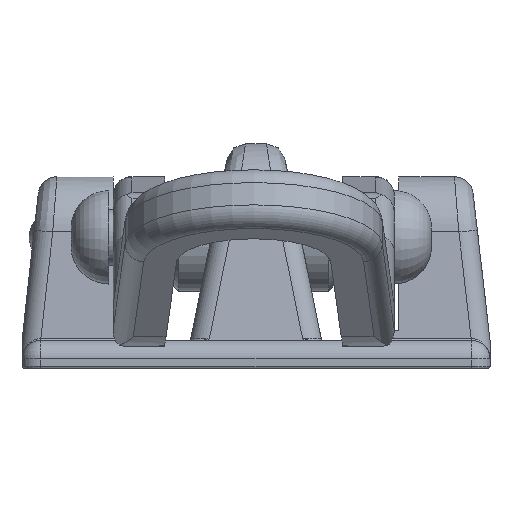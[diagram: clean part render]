
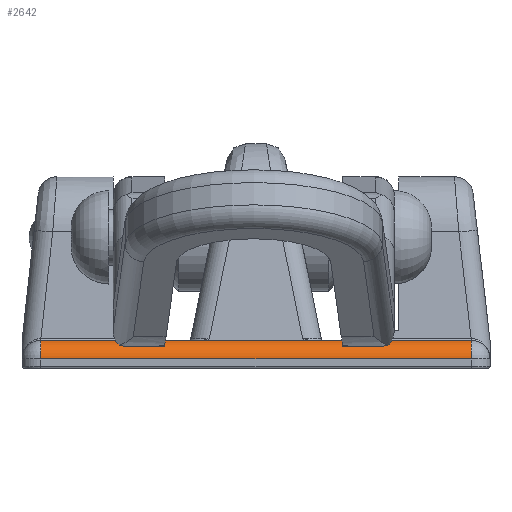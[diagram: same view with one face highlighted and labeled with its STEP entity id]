
A CAD part, left-side view. The second image highlights one B-rep face of the part: STEP entity #2642.
In plain terms, the highlighted cylindrical face has radius 2 mm (diameter 4 mm), a partial arc.
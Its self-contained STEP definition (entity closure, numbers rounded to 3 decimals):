
#113=CIRCLE('',#2916,2.);
#114=CIRCLE('',#2918,2.);
#317=LINE('',#4024,#476);
#361=LINE('',#4176,#520);
#369=LINE('',#4196,#528);
#376=LINE('',#4235,#535);
#476=VECTOR('',#3191,1000.);
#520=VECTOR('',#3299,1000.);
#528=VECTOR('',#3311,1000.);
#535=VECTOR('',#3338,1000.);
#809=ORIENTED_EDGE('',*,*,#1521,.T.);
#810=ORIENTED_EDGE('',*,*,#1469,.F.);
#811=ORIENTED_EDGE('',*,*,#1402,.T.);
#812=ORIENTED_EDGE('',*,*,#1479,.F.);
#813=ORIENTED_EDGE('',*,*,#1522,.F.);
#814=ORIENTED_EDGE('',*,*,#1496,.F.);
#1402=EDGE_CURVE('',#1783,#1782,#317,.T.);
#1469=EDGE_CURVE('',#1783,#1839,#361,.F.);
#1479=EDGE_CURVE('',#1848,#1782,#369,.F.);
#1496=EDGE_CURVE('',#1862,#1859,#376,.T.);
#1521=EDGE_CURVE('',#1862,#1839,#113,.F.);
#1522=EDGE_CURVE('',#1859,#1848,#114,.T.);
#1782=VERTEX_POINT('',#4023);
#1783=VERTEX_POINT('',#4025);
#1839=VERTEX_POINT('',#4177);
#1848=VERTEX_POINT('',#4195);
#1859=VERTEX_POINT('',#4229);
#1862=VERTEX_POINT('',#4234);
#2135=EDGE_LOOP('',(#809,#810,#811,#812,#813,#814));
#2362=FACE_BOUND('',#2135,.T.);
#2545=CYLINDRICAL_SURFACE('',#2917,2.);
#2642=ADVANCED_FACE('',(#2362),#2545,.T.);
#2916=AXIS2_PLACEMENT_3D('',#4297,#3403,#3404);
#2917=AXIS2_PLACEMENT_3D('',#4298,#3405,#3406);
#2918=AXIS2_PLACEMENT_3D('',#4299,#3407,#3408);
#3191=DIRECTION('',(-1.,0.,0.));
#3299=DIRECTION('',(-1.,0.,0.));
#3311=DIRECTION('',(-1.,0.,0.));
#3338=DIRECTION('',(-1.,0.,0.));
#3403=DIRECTION('',(1.,0.,0.));
#3404=DIRECTION('',(0.,0.,-1.));
#3405=DIRECTION('',(1.,0.,0.));
#3406=DIRECTION('',(0.,0.,-1.));
#3407=DIRECTION('',(-1.,0.,0.));
#3408=DIRECTION('',(0.,0.,1.));
#4023=CARTESIAN_POINT('',(-5.846,-28.,3.));
#4024=CARTESIAN_POINT('',(7.,-28.,3.));
#4025=CARTESIAN_POINT('',(5.846,-28.,3.));
#4176=CARTESIAN_POINT('',(25.,-28.,3.));
#4177=CARTESIAN_POINT('',(23.,-28.,3.));
#4195=CARTESIAN_POINT('',(-23.,-28.,3.));
#4196=CARTESIAN_POINT('',(25.,-28.,3.));
#4229=CARTESIAN_POINT('',(-23.,-30.,1.));
#4234=CARTESIAN_POINT('',(23.,-30.,1.));
#4235=CARTESIAN_POINT('',(-25.,-30.,1.));
#4297=CARTESIAN_POINT('',(23.,-28.,1.));
#4298=CARTESIAN_POINT('',(25.,-28.,1.));
#4299=CARTESIAN_POINT('',(-23.,-28.,1.));
